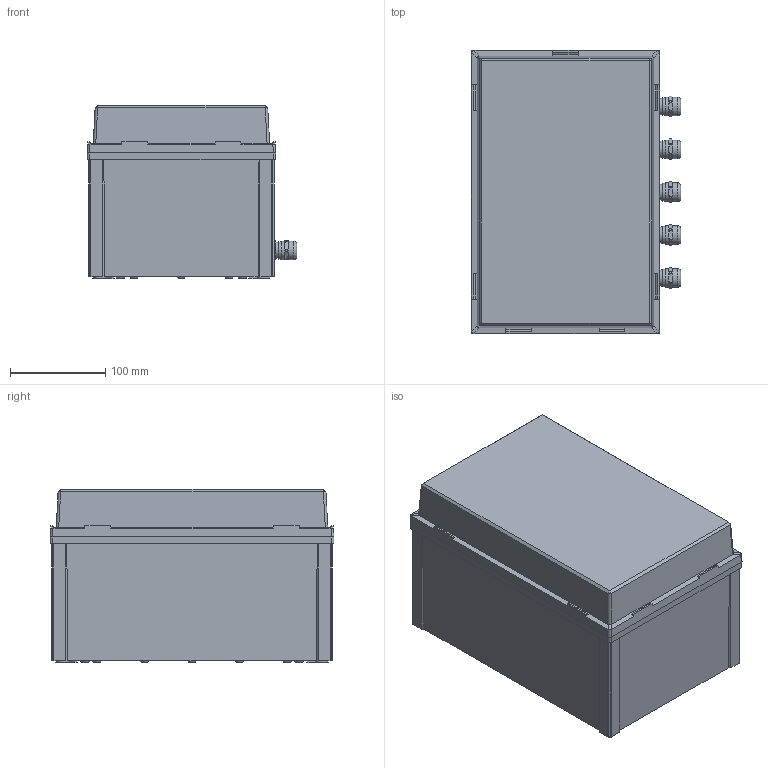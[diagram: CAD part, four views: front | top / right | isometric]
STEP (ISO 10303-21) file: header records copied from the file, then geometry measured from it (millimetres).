
FILE_DESCRIPTION((''),'2;1');
FILE_NAME('R:\Mekanisk design\HBLT-C1\5. STEP files\HBLT-C1-ENC-R2.stp','2015-11-06T11:37:07',('kc'),(''),'Autodesk Inventor 2013','Autodesk Inventor 2013','');
FILE_SCHEMA(('AUTOMOTIVE_DESIGN { 1 0 10303 214 1 1 1 1 }'));
Length unit declared in the file: millimetre
Products named in the file (1): HBLT-C1-ENC-R2
Bounding box: 220.23 x 298 x 182 mm (x, y, z)
Volume: 1403403.3 mm3; surface area: 930677.1 mm2
Topology: 1 solids, 816 shells, 3174 faces, 10344 edges, 8207 vertices
Faces by surface type: plane 2176, cylinder 631, bspline 228, cone 88, torus 45, sphere 6
Full cylindrical faces by diameter (mm): 2 x4, 3.2 x2, 4 x9, 4.2 x16, 4.8 x16, 5 x4, 5.2 x4, 6 x8, 10 x10, 12 x4, 12.8 x4, 16 x5, 17.16 x5, 18.5 x10, 19.6 x10
Entity records: 122212 total; most frequent: CARTESIAN_POINT 26391, DIRECTION 17175, ORIENTED_EDGE 16148, EDGE_CURVE 10083, VERTEX_POINT 8115, VECTOR 7533, LINE 7533, AXIS2_PLACEMENT_3D 4821
